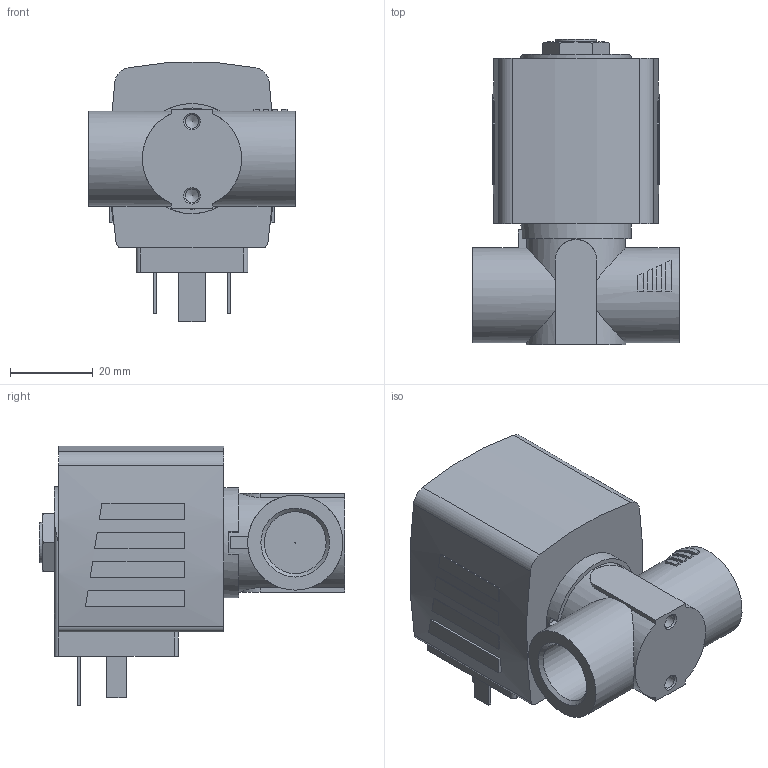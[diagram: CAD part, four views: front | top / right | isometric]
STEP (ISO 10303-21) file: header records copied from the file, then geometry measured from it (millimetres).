
FILE_DESCRIPTION(/* description */ ('STEP AP214'),/* implementation_level */ '2;1');
FILE_NAME(/* name */ '6240-386651-2_2-way_solenoid_valve__pilot-controlled',/* time_stamp */ '2024-05-07T21:11:54+02:00',/* author */ ('License CC BY-ND 4.0'),/* organization */ ('CADENAS'),/* preprocessor_version */ 'ST-DEVELOPER v19.3',/* originating_system */ 'PARTsolutions',/* authorisation */ ' ');
FILE_SCHEMA (('AUTOMOTIVE_DESIGN {1 0 10303 214 3 1 1}'));
Length unit declared in the file: millimetre
Products named in the file (3): 6240-386651-2/2-way solenoid valve, pilot-controlled; 6240-Gehaeuse-2/2-Wege-Magnetventil, vorgesteuert StandardG3/86MS; AC10ex-6NA38-Plan-Coil
Assembly tree (2 placements, depth 2):
  6240-386651-2/2-way solenoid valve, pilot-controlled
    6240-Gehaeuse-2/2-Wege-Magnetventil, vorgesteuert StandardG3/86MS
    AC10ex-6NA38-Plan-Coil
Bounding box: 50 x 74 x 62.83 mm (x, y, z)
Volume: 96782.3 mm3; surface area: 18645.8 mm2
Topology: 2 solids, 2 shells, 156 faces, 378 edges, 247 vertices
Faces by surface type: plane 109, cylinder 34, cone 13
Full cylindrical faces by diameter (mm): 0.2 x1, 2.013 x1, 3.242 x2, 9.74 x1, 14.95 x2, 23 x2, 24 x1, 24.5 x1, 26.65 x1
Entity records: 5603 total; most frequent: CARTESIAN_POINT 855, DIRECTION 753, ORIENTED_EDGE 700, EDGE_CURVE 350, AXIS2_PLACEMENT_3D 267, VERTEX_POINT 240, LINE 219, VECTOR 219
